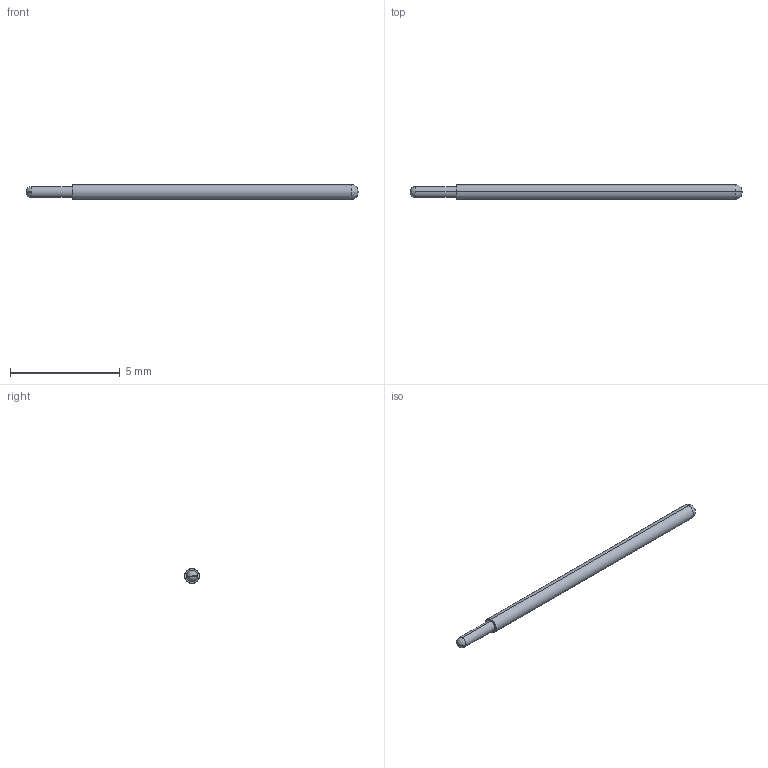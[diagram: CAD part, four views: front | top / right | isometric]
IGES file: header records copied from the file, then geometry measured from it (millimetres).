
Start section: SolidWorks IGES file using analytic representation for surfaces
Global section: file name: C:\Users\otazawa\Desktop\プローブカタログデータ確認分2014.07\68Series\IP068-1R.IGS,15HSolidWorks; native system: 2011; preprocessor: SolidWorks 2011; author: otazawa; date: 140820.144207; units: millimetre
Bounding box: 15.1 x 0.68 x 0.68 mm (x, y, z)
Surface area: 31.3 mm2 (no closed solid volume)
Topology: 0 solids, 0 shells, 10 faces, 76 edges, 74 vertices
Faces by surface type: revolution 6, bspline 4
